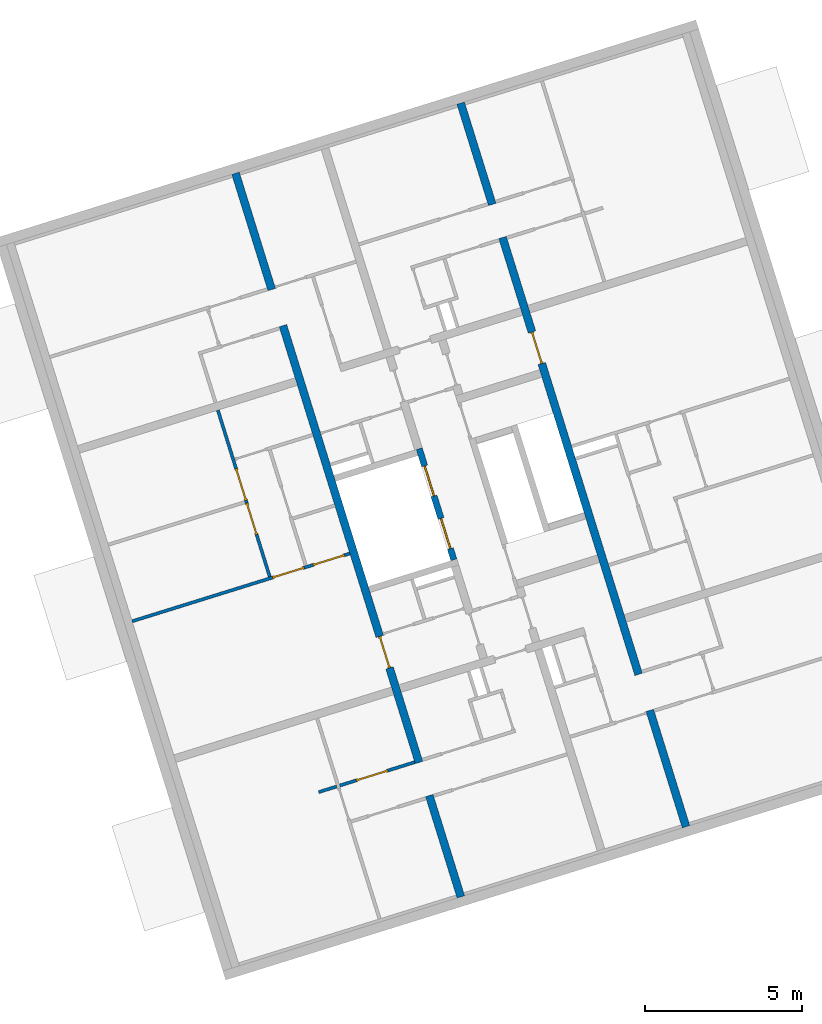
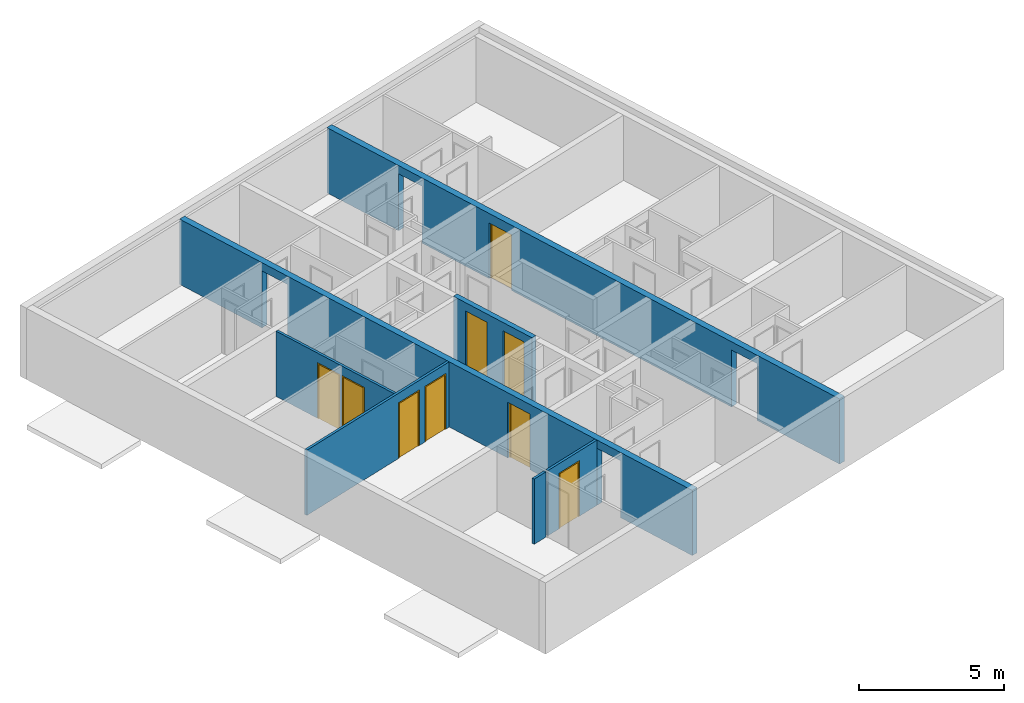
# One storey, part 8 of 9: 9 doors, 6 walls, 14 openings.
"""IFC4 building model written with IfcOpenShell, lengths in metres."""

import ifcopenshell
import ifcopenshell.guid

model = None  # the IFC model being written
_history = None  # IfcOwnerHistory: only IFC2X3 demands one
_inside = {}  # id of a spatial element -> (the spatial element, [elements in it])
_under = {}  # id of a project, library or spatial element -> (it, [spatial elements below it])
_declared = {}  # id of a project -> (the project, [libraries it declares])
_typed = {}  # id of a type object -> (the type object, [elements of that type])
_made_of = {}  # id of a material, layer set ... -> (it, [elements and type objects made of it])


def new_model(schema):
    """Start an empty IFC model of exactly this schema.

    Asked for "IFC4X3", IfcOpenShell would pick the latest addendum, in which some entities
    have other attributes; the version numbers below select the first issue.
    IFC2X3 requires an IfcOwnerHistory on every rooted entity: one is made here for all.
    """
    global model, _history
    if schema == "IFC4X3":
        model = ifcopenshell.file(schema_version=(4, 3, 0, 0))
    else:
        model = ifcopenshell.file(schema=schema)
    _inside.clear()
    _under.clear()
    _declared.clear()
    _typed.clear()
    _made_of.clear()
    _history = None
    if model.schema == "IFC2X3":
        org = make("IfcOrganization", Name="unknown")
        user = make(
            "IfcPersonAndOrganization",
            ThePerson=make("IfcPerson", FamilyName="unknown"),
            TheOrganization=org,
        )
        app = make(
            "IfcApplication",
            ApplicationDeveloper=org,
            Version="unknown",
            ApplicationFullName="unknown",
            ApplicationIdentifier="unknown",
        )
        _history = make(
            "IfcOwnerHistory",
            OwningUser=user,
            OwningApplication=app,
            ChangeAction="ADDED",
            CreationDate=0,
        )
    return model


def make(cls, **values):
    """One entity of the class cls with the attributes given. An attribute that is None is left unset."""
    return model.create_entity(
        cls, **{name: value for name, value in values.items() if value is not None}
    )


def entity(cls, *values):
    """Any entity or typed value of the class cls, its attributes in the order of the schema. None: left unset."""
    e = model.create_entity(cls)
    for i, value in enumerate(values):
        if value is not None:
            e[i] = value
    return e


def rooted(cls, **values):
    """An entity with a GlobalId (a new one), such as an element, a storey or a relation."""
    return make(cls, GlobalId=ifcopenshell.guid.new(), OwnerHistory=_history, **values)


def si_unit(unit_type, name, prefix=None):
    """IfcSIUnit, for example si_unit("LENGTHUNIT", "METRE", prefix="MILLI")."""
    return make("IfcSIUnit", UnitType=unit_type, Prefix=prefix, Name=name)


def converted_unit(unit_type, name, factor, base, dimensions=None, offset=None):
    """IfcConversionBasedUnit, such as the inch: factor (a typed value) times the base unit."""
    return make(
        "IfcConversionBasedUnit"
        if offset is None
        else "IfcConversionBasedUnitWithOffset",
        ConversionOffset=offset,
        Dimensions=None
        if dimensions is None
        else entity("IfcDimensionalExponents", *dimensions),
        UnitType=unit_type,
        Name=name,
        ConversionFactor=make(
            "IfcMeasureWithUnit", ValueComponent=factor, UnitComponent=base
        ),
    )


def assignment(units):
    """IfcUnitAssignment: the units of a project."""
    return None if units is None else make("IfcUnitAssignment", Units=units)


def point(xyz):
    """IfcCartesianPoint."""
    return None if xyz is None else make("IfcCartesianPoint", Coordinates=xyz)


def direction(xyz):
    """IfcDirection."""
    return None if xyz is None else make("IfcDirection", DirectionRatios=xyz)


def frame(location, z_axis=None, x_axis=None):
    """IfcAxis2Placement3D, a coordinate frame: its origin and axes. An axis left out is left unset."""
    return make(
        "IfcAxis2Placement3D",
        Location=point(location),
        Axis=direction(z_axis),
        RefDirection=direction(x_axis),
    )


def origin():
    """The frame at (0, 0, 0) with its axes left unset."""
    return frame((0.0, 0.0, 0.0))


def place(relative_to, where):
    """IfcLocalPlacement: puts the frame where relative to a parent placement (None: the world)."""
    return make(
        "IfcLocalPlacement", PlacementRelTo=relative_to, RelativePlacement=where
    )


def context(
    kind, dimensions, precision=None, world=None, true_north=None, identifier=None
):
    """IfcGeometricRepresentationContext, for example the 3D "Model" context."""
    return make(
        "IfcGeometricRepresentationContext",
        ContextIdentifier=identifier,
        ContextType=kind,
        CoordinateSpaceDimension=dimensions,
        Precision=precision,
        WorldCoordinateSystem=world,
        TrueNorth=true_north,
    )


def subcontext(parent, identifier, kind, view, scale=None):
    """IfcGeometricRepresentationSubContext, for example "Body" below "Model"."""
    return make(
        "IfcGeometricRepresentationSubContext",
        ContextIdentifier=identifier,
        ContextType=kind,
        ParentContext=parent,
        TargetScale=scale,
        TargetView=view,
    )


def project(units=None, contexts=None):
    """IfcProject with its units and contexts."""
    return rooted(
        "IfcProject",
        Name="project",
        RepresentationContexts=contexts,
        UnitsInContext=assignment(units),
    )


def spatial(cls, under=None, at=None, **own):
    """A site, building, storey or space (cls), placed at a placement, below another one or the project."""
    s = rooted(cls, ObjectPlacement=at, **own)
    if under is not None:
        _under.setdefault(under.id(), (under, []))[1].append(s)
    return s


def point_list(points):
    """IfcCartesianPointList2D or 3D."""
    cls = (
        "IfcCartesianPointList2D" if len(points[0]) == 2 else "IfcCartesianPointList3D"
    )
    return make(cls, CoordList=points)


def indexed_curve(points, segments=None, self_intersect=None):
    """IfcIndexedPolyCurve: lines and arcs through numbered points (the first is 1)."""
    return make(
        "IfcIndexedPolyCurve",
        Points=point_list(points),
        Segments=segments,
        SelfIntersect=self_intersect,
    )


def outline(outer, holes=None, kind="AREA"):
    """IfcArbitraryClosedProfileDef: a profile drawn as a closed curve; with holes, ...WithVoids."""
    if holes is None:
        return make("IfcArbitraryClosedProfileDef", ProfileType=kind, OuterCurve=outer)
    return make(
        "IfcArbitraryProfileDefWithVoids",
        ProfileType=kind,
        OuterCurve=outer,
        InnerCurves=holes,
    )


def extrude(swept, where, along, depth):
    """IfcExtrudedAreaSolid: the profile swept, set in the frame where, extruded along a direction by depth."""
    return make(
        "IfcExtrudedAreaSolid",
        SweptArea=swept,
        Position=where,
        ExtrudedDirection=direction(along),
        Depth=depth,
    )


def polygons(points, faces, closed=None, point_numbers=None):
    """IfcPolygonalFaceSet: a face is its outer loop, then its inner loops; points numbered from 1."""
    made = []
    for loops in faces:
        if len(loops) == 1:
            made.append(make("IfcIndexedPolygonalFace", CoordIndex=loops[0]))
        else:
            made.append(
                make(
                    "IfcIndexedPolygonalFaceWithVoids",
                    CoordIndex=loops[0],
                    InnerCoordIndices=loops[1:],
                )
            )
    return make(
        "IfcPolygonalFaceSet",
        Coordinates=point_list(points),
        Closed=closed,
        Faces=made,
        PnIndex=point_numbers,
    )


def shape(context_of_items, identifier, shape_type, items):
    """IfcShapeRepresentation: the items that make up one representation, for example the "Body"."""
    return make(
        "IfcShapeRepresentation",
        ContextOfItems=context_of_items,
        RepresentationIdentifier=identifier,
        RepresentationType=shape_type,
        Items=items,
    )


def source(mapping_origin, context_of_items, identifier, shape_type, items):
    """IfcRepresentationMap: a shape defined once, which mapped items show again and again."""
    return make(
        "IfcRepresentationMap",
        MappingOrigin=mapping_origin,
        MappedRepresentation=shape(context_of_items, identifier, shape_type, items),
    )


def transform(
    local_origin,
    x_axis=None,
    y_axis=None,
    z_axis=None,
    scale=None,
    scale2=None,
    scale3=None,
    uniform=True,
):
    """IfcCartesianTransformationOperator3D, or its non-uniform kind. x_axis, y_axis, z_axis: its Axis1, 2, 3."""
    if uniform:
        return make(
            "IfcCartesianTransformationOperator3D",
            Axis1=direction(x_axis),
            Axis2=direction(y_axis),
            LocalOrigin=point(local_origin),
            Scale=scale,
            Axis3=direction(z_axis),
        )
    return make(
        "IfcCartesianTransformationOperator3DnonUniform",
        Axis1=direction(x_axis),
        Axis2=direction(y_axis),
        LocalOrigin=point(local_origin),
        Scale=scale,
        Axis3=direction(z_axis),
        Scale2=scale2,
        Scale3=scale3,
    )


def mapped(mapping_source, mapping_target):
    """IfcMappedItem: shows the shape of a source again, moved by a transform."""
    return make(
        "IfcMappedItem", MappingSource=mapping_source, MappingTarget=mapping_target
    )


def material(Name=None, Category=None):
    """IfcMaterial."""
    return make("IfcMaterial", Name=Name, Category=Category)


def constituent(of_material, Name=None, Category=None, fraction=None):
    """IfcMaterialConstituent: one of the materials an element consists of."""
    return make(
        "IfcMaterialConstituent",
        Name=Name,
        Material=of_material,
        Fraction=fraction,
        Category=Category,
    )


def constituent_set(constituents=None, Name=None):
    """IfcMaterialConstituentSet."""
    return make(
        "IfcMaterialConstituentSet", Name=Name, MaterialConstituents=constituents
    )


def made_of(thing, what):
    """Note that an element or type object is made of a material, layer set ...; save() writes the relation."""
    if what is not None:
        _made_of.setdefault(what.id(), (what, []))[1].append(thing)
    return thing


def type_object(cls, material=None, **own):
    """A type object (cls), such as IfcWallType, which elements share."""
    return made_of(rooted(cls, **own), material)


def type_shapes(of_type, sources):
    """Give a type object the sources (RepresentationMaps) that its elements show as mapped items."""
    of_type.RepresentationMaps = sources


def element(
    cls,
    number,
    at=None,
    inside=None,
    cuts=None,
    type_object=None,
    material=None,
    context=None,
    identifier="Body",
    shape_type=None,
    held_by="IfcProductDefinitionShape",
    body=None,
    shapes=None,
    **own,
):
    """One element of the class cls, such as IfcWall. Its Tag is "e" and its number.

    at: its placement. inside: the storey or other place that contains it. cuts: it is an
    opening in that element (IfcRelVoidsElement). A single representation is given by context,
    identifier, shape_type and body (its items); several are given by shapes. held_by: the class
    of the entity that holds the representations. save() writes the other relations.
    """
    e = rooted(cls, Tag="e%d" % number, ObjectPlacement=at, **own)
    if body is not None:
        shapes = [shape(context, identifier, shape_type, body)]
    if shapes is not None:
        e.Representation = make(held_by, Representations=shapes)
    if inside is not None:
        _inside.setdefault(inside.id(), (inside, []))[1].append(e)
    if cuts is not None:
        rooted(
            "IfcRelVoidsElement", RelatingBuildingElement=cuts, RelatedOpeningElement=e
        )
    if type_object is not None:
        _typed.setdefault(type_object.id(), (type_object, []))[1].append(e)
    return made_of(e, material)


def fill(opening, filler):
    """IfcRelFillsElement: the door or window that sits in an opening."""
    return rooted(
        "IfcRelFillsElement",
        RelatingOpeningElement=opening,
        RelatedBuildingElement=filler,
    )


def aggregate(whole, parts):
    """IfcRelAggregates: a whole, such as a stair, and the parts it consists of."""
    return rooted("IfcRelAggregates", RelatingObject=whole, RelatedObjects=parts)


def save(model, path):
    """Write the relations noted so far, then the file.

    IfcRelAggregates (storeys below a building ...), IfcRelContainedInSpatialStructure (elements
    in a storey), IfcRelDefinesByType, IfcRelAssociatesMaterial and IfcRelDeclares: one each for
    every whole, place, type object, material and project.
    """
    for whole, parts in _under.values():
        aggregate(whole, parts)
    for where, things in _inside.values():
        rooted(
            "IfcRelContainedInSpatialStructure",
            RelatedElements=things,
            RelatingStructure=where,
        )
    for kind, things in _typed.values():
        rooted("IfcRelDefinesByType", RelatedObjects=things, RelatingType=kind)
    for what, things in _made_of.values():
        rooted("IfcRelAssociatesMaterial", RelatedObjects=things, RelatingMaterial=what)
    for by, libraries in _declared.values():
        rooted("IfcRelDeclares", RelatingContext=by, RelatedDefinitions=libraries)
    model.write(path)


model = new_model("IFC4")

# Units and contexts
model_context = context("Model", 3, precision=1e-05, world=origin(), true_north=direction((6.12323399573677e-17, 1.0)))
body_context = subcontext(model_context, "Body", "Model", "MODEL_VIEW")
ifc_project = project(units=[si_unit("LENGTHUNIT", "METRE"), si_unit("AREAUNIT", "SQUARE_METRE"), si_unit("VOLUMEUNIT", "CUBIC_METRE"), converted_unit("PLANEANGLEUNIT", "DEGREE", entity("IfcPlaneAngleMeasure", 0.0174532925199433), si_unit("PLANEANGLEUNIT", "RADIAN"), dimensions=[0, 0, 0, 0, 0, 0, 0])], contexts=[model_context])

# Site, building, storey
site_placement = place(None, frame((13.1347999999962, 11.9886000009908, 0.0), z_axis=(0.0, 0.0, 1.0), x_axis=(0.954770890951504, 0.297342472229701, 0.0)))
site = spatial("IfcSite", under=ifc_project, at=site_placement, Name="Schiehaven", CompositionType="ELEMENT")
building_placement = place(site_placement, origin())
building = spatial("IfcBuilding", under=site, at=building_placement, Name="VORM huis", CompositionType="ELEMENT")
storey_placement = place(building_placement, frame((0.0, 0.0, 24.9)))
storey = spatial("IfcBuildingStorey", under=building, at=storey_placement, Name="08 achtste verdieping", CompositionType="ELEMENT", Elevation=24.9)

# Wall, openings, door
ifc_material_1 = material(Name="beton_gewapend_ihw", Category="Miscellaneous")
wall_type_1 = type_object("IfcWallType", Name="Basic Wall:28_WA_skelet_wand 250mm_gen", PredefinedType="STANDARD")
wall_1_placement = place(storey_placement, frame((12.5000000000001, 5.0, 0.0), z_axis=(0.0, 0.0, 1.0), x_axis=(0.0, 1.0, 0.0)))
wall_1 = element("IfcWall", 1, at=wall_1_placement, inside=storey, type_object=wall_type_1, material=ifc_material_1, Name="Constructieve wand", ObjectType="Wand", PredefinedType="NOTDEFINED", context=body_context, shape_type="Tessellation", body=[
    polygons([(8.67499999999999, -0.125, 2.34999999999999), (8.67499999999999, -0.125, 0.0), (19.0250000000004, -0.124999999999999, 0.0), (19.0250000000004, -0.124999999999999, 2.4), (20.2250000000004, -0.124999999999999, 2.4), (20.2250000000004, -0.124999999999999, 0.0), (24.1, -0.125, 0.0), (24.1, -0.125, 2.75), (7.025, -0.124999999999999, 2.75), (6.775, -0.125, 2.75), (0.0, -0.125, 2.75), (1.08286712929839e-15, -0.125, 0.0), (3.37500000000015, -0.124999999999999, 0.0), (3.37500000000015, -0.124999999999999, 2.4), (4.47500000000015, -0.125, 2.4), (4.47500000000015, -0.125, 0.0), (6.775, -0.125, 0.0), (7.025, -0.124999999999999, 0.0), (7.62499999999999, -0.124999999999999, 0.0), (7.62499999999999, -0.124999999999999, 2.34999999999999), (19.0250000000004, 0.125, 0.0), (8.67499999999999, 0.125, 0.0), (8.67499999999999, 0.125, 2.34999999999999), (7.62499999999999, 0.125, 2.34999999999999), (7.62499999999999, 0.125, 0.0), (4.47500000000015, 0.124999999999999, 0.0), (4.47500000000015, 0.124999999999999, 2.4), (3.37500000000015, 0.125000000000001, 2.4), (3.37500000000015, 0.125000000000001, 0.0), (1.08286712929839e-15, 0.125, 0.0), (0.0, 0.125, 2.75), (24.1, 0.124999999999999, 2.75), (24.1, 0.124999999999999, 0.0), (20.2250000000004, 0.125, 0.0), (20.2250000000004, 0.125, 2.4), (19.0250000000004, 0.125, 2.4)], [[[1, 2, 3, 4, 5, 6, 7, 8, 9, 10, 11, 12, 13, 14, 15, 16, 17, 18, 19, 20]], [[21, 22, 23, 24, 25, 26, 27, 28, 29, 30, 31, 32, 33, 34, 35, 36]], [[12, 30, 29, 13]], [[8, 7, 33, 32]], [[11, 10, 9, 8, 32, 31]], [[12, 11, 31, 30]], [[14, 28, 27, 15]], [[28, 14, 13, 29]], [[15, 27, 26, 16]], [[4, 36, 35, 5]], [[36, 4, 3, 21]], [[5, 35, 34, 6]], [[25, 24, 20, 19]], [[23, 22, 2, 1]], [[24, 23, 1, 20]], [[19, 18, 17, 16, 26, 25]], [[3, 2, 22, 21]], [[33, 7, 6, 34]]], closed=True),
])
opening_1_placement = place(wall_1_placement, origin())
element("IfcOpeningElement", 2, at=opening_1_placement, cuts=wall_1, Name="Constructieve wand", PredefinedType="OPENING", context=body_context, shape_type="SweptSolid", body=[
    extrude(outline(indexed_curve([(-1.2, -0.550000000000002), (1.2, -0.550000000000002), (1.2, 0.550000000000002), (-1.2, 0.550000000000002), (-1.2, -0.550000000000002)], self_intersect=False)), frame((3.92500000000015, -0.125, 1.2), z_axis=(0.0, 1.0, 0.0), x_axis=(0.0, 0.0, -1.0)), (0.0, 0.0, 1.0), 0.249999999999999),
])
opening_2_placement = place(wall_1_placement, origin())
element("IfcOpeningElement", 3, at=opening_2_placement, cuts=wall_1, Name="Constructieve wand", PredefinedType="OPENING", context=body_context, shape_type="SweptSolid", body=[
    extrude(outline(indexed_curve([(-1.2, -0.599999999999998), (1.2, -0.599999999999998), (1.2, 0.599999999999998), (-1.2, 0.599999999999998), (-1.2, -0.599999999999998)], self_intersect=False)), frame((19.6250000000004, -0.124999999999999, 1.2), z_axis=(0.0, 1.0, 0.0), x_axis=(0.0, 0.0, -1.0)), (0.0, 0.0, 1.0), 0.249999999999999),
])
opening_3_placement = place(wall_1_placement, frame((8.67499999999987, 0.124999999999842, 0.0)))
opening_3 = element("IfcOpeningElement", 4, at=opening_3_placement, cuts=wall_1, Name="Binnendeur", PredefinedType="OPENING", context=body_context, shape_type="SweptSolid", body=[
    extrude(outline(indexed_curve([(2.34999999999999, 1.05), (0.0, 1.05), (0.0, 1.08286712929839e-15), (2.34999999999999, 1.08286712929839e-15), (2.34999999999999, 1.05)], self_intersect=False)), frame((0.0, 0.0, 0.0), z_axis=(0.0, -1.0, 0.0), x_axis=(0.0, 0.0, 1.0)), (0.0, 0.0, 1.0), 0.25),
])
ifc_material_2 = material(Name="PD_a_binnenwandopeningen", Category="Miscellaneous")
ifc_constituent_1 = constituent(ifc_material_2, Name="PD_a_binnenwandopeningen", Category="Miscellaneous")
ifc_material_3 = material(Name="metaal_aluminium_ntb", Category="Miscellaneous")
ifc_constituent_2 = constituent(ifc_material_3, Name="metaal_aluminium_ntb", Category="Miscellaneous")
ifc_constituent_set_1 = constituent_set(constituents=[ifc_constituent_1, ifc_constituent_2])
door_type_1 = type_object("IfcDoorType", Name="32_DO_binnendeur enkel:binnendeur", OperationType="REVOLVING", PredefinedType="DOOR")
shared_shape_1 = source(origin(), body_context, "Body", "SweptSolid", [
    extrude(outline(indexed_curve([(-1.16249999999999, -0.525000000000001), (1.18749999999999, -0.525), (1.18749999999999, 0.525000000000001), (-1.16249999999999, 0.525000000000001), (-1.16249999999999, 0.475), (1.13749999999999, 0.475), (1.13749999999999, -0.475), (-1.16249999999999, -0.475), (-1.16249999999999, -0.525000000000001)], self_intersect=False)), frame((0.525000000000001, 0.0749999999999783, 1.16249999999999), z_axis=(0.0, 1.0, 0.0), x_axis=(0.0, 0.0, 1.0)), (0.0, 0.0, 1.0), 0.1),
    extrude(outline(indexed_curve([(-0.025, -0.475), (0.025, -0.475), (0.025, 0.475), (-0.025, 0.475), (-0.025, -0.475)], self_intersect=False)), frame((0.525000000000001, 0.12499999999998, 0.0), z_axis=(0.0, 0.0, 1.0), x_axis=(0.0, 1.0, 0.0)), (0.0, 0.0, 1.0), 2.29999999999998),
])
door_1_placement = place(opening_3_placement, frame((0.0, 0.0, 0.0), z_axis=(0.0, 0.0, 1.0), x_axis=(-1.0, 0.0, 0.0)))
door_1 = element("IfcDoor", 5, at=door_1_placement, inside=storey, type_object=door_type_1, material=ifc_constituent_set_1, Name="Binnendeur", ObjectType="Deur", OperationType="REVOLVING", OverallHeight=2.34999999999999, OverallWidth=1.05, PredefinedType="DOOR", context=body_context, shape_type="MappedRepresentation", body=[
    mapped(shared_shape_1, transform((0.0, 0.0, 0.0), scale=1.0)),
])
fill(opening_3, door_1)

wall_2_placement = place(storey_placement, frame((20.0, 29.0999999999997, 0.0), z_axis=(0.0, 0.0, 1.0), x_axis=(0.0, -1.0, 0.0)))
wall_2 = element("IfcWall", 6, at=wall_2_placement, inside=storey, type_object=wall_type_1, material=ifc_material_1, Name="Constructieve wand", ObjectType="Wand", PredefinedType="NOTDEFINED", context=body_context, shape_type="Tessellation", body=[
    polygons([(8.67499999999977, -0.124999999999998, 2.34999999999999), (8.67499999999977, -0.124999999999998, 0.0), (19.0249999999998, -0.124999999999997, 0.0), (19.0249999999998, -0.124999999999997, 2.4), (20.2249999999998, -0.125000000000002, 2.4), (20.2249999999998, -0.124999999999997, 0.0), (24.1, -0.124999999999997, 0.0), (24.1, -0.124999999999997, 2.75), (7.025, -0.124999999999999, 2.75), (6.775, -0.125, 2.75), (4.33146851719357e-15, -0.124999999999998, 2.75), (4.33146851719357e-15, -0.124999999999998, 0.0), (3.37499999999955, -0.124999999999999, 0.0), (3.37499999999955, -0.124999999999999, 2.4), (4.47499999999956, -0.124999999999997, 2.4), (4.47499999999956, -0.124999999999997, 0.0), (6.775, -0.125, 0.0), (7.025, -0.124999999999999, 0.0), (7.62499999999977, -0.124999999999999, 0.0), (7.62499999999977, -0.124999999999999, 2.34999999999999), (19.0249999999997, 0.125000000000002, 0.0), (8.67499999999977, 0.125000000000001, 0.0), (8.67499999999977, 0.125000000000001, 2.34999999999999), (7.62499999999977, 0.125, 2.34999999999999), (7.62499999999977, 0.125, 0.0), (4.47499999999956, 0.125000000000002, 0.0), (4.47499999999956, 0.125000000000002, 2.4), (3.37499999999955, 0.125, 2.4), (3.37499999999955, 0.125, 0.0), (0.0, 0.125000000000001, 0.0), (0.0, 0.125000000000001, 2.75), (24.1, 0.125000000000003, 2.75), (24.1, 0.125000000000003, 0.0), (20.2249999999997, 0.125000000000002, 0.0), (20.2249999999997, 0.125000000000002, 2.4), (19.0249999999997, 0.125000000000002, 2.4)], [[[1, 2, 3, 4, 5, 6, 7, 8, 9, 10, 11, 12, 13, 14, 15, 16, 17, 18, 19, 20]], [[21, 22, 23, 24, 25, 26, 27, 28, 29, 30, 31, 32, 33, 34, 35, 36]], [[12, 30, 29, 13]], [[8, 7, 33, 32]], [[11, 10, 9, 8, 32, 31]], [[12, 11, 31, 30]], [[14, 28, 27, 15]], [[28, 14, 13, 29]], [[15, 27, 26, 16]], [[4, 36, 35, 5]], [[36, 4, 3, 21]], [[5, 35, 34, 6]], [[25, 24, 20, 19]], [[23, 22, 2, 1]], [[24, 23, 1, 20]], [[19, 18, 17, 16, 26, 25]], [[3, 2, 22, 21]], [[33, 7, 6, 34]]], closed=True),
])
opening_4_placement = place(wall_2_placement, origin())
element("IfcOpeningElement", 7, at=opening_4_placement, cuts=wall_2, Name="Constructieve wand", PredefinedType="OPENING", context=body_context, shape_type="SweptSolid", body=[
    extrude(outline(indexed_curve([(-1.2, -0.550000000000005), (1.2, -0.550000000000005), (1.2, 0.550000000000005), (-1.2, 0.550000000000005), (-1.2, -0.550000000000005)], self_intersect=False)), frame((3.92499999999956, -0.125000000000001, 1.2), z_axis=(0.0, 1.0, 0.0), x_axis=(0.0, 0.0, -1.0)), (0.0, 0.0, 1.0), 0.250000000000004),
])
opening_5_placement = place(wall_2_placement, origin())
element("IfcOpeningElement", 8, at=opening_5_placement, cuts=wall_2, Name="Constructieve wand", PredefinedType="OPENING", context=body_context, shape_type="SweptSolid", body=[
    extrude(outline(indexed_curve([(-1.2, -0.599999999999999), (1.2, -0.599999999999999), (1.2, 0.599999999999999), (-1.2, 0.599999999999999), (-1.2, -0.599999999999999)], self_intersect=False)), frame((19.6249999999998, -0.125000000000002, 1.2), z_axis=(0.0, 1.0, 0.0), x_axis=(0.0, 0.0, -1.0)), (0.0, 0.0, 1.0), 0.250000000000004),
])
opening_6_placement = place(wall_2_placement, frame((8.67499999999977, 0.125000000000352, 0.0)))
opening_6 = element("IfcOpeningElement", 9, at=opening_6_placement, cuts=wall_2, Name="Binnendeur", PredefinedType="OPENING", context=body_context, shape_type="SweptSolid", body=[
    extrude(outline(indexed_curve([(2.34999999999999, 1.05), (0.0, 1.05), (0.0, -7.44152288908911e-29), (2.34999999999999, -7.44152288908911e-29), (2.34999999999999, 1.05)], self_intersect=False)), frame((0.0, 0.0, 0.0), z_axis=(0.0, -1.0, 0.0), x_axis=(0.0, 0.0, 1.0)), (0.0, 0.0, 1.0), 0.25),
])
ifc_constituent_3 = constituent(ifc_material_2, Name="PD_a_binnenwandopeningen", Category="Miscellaneous")
ifc_constituent_4 = constituent(ifc_material_3, Name="metaal_aluminium_ntb", Category="Miscellaneous")
ifc_constituent_set_2 = constituent_set(constituents=[ifc_constituent_3, ifc_constituent_4])
door_2_placement = place(opening_6_placement, frame((0.0, 0.0, 0.0), z_axis=(0.0, 0.0, 1.0), x_axis=(-1.0, 0.0, 0.0)))
door_2 = element("IfcDoor", 10, at=door_2_placement, inside=storey, type_object=door_type_1, material=ifc_constituent_set_2, Name="Binnendeur", ObjectType="Deur", OperationType="REVOLVING", OverallHeight=2.34999999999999, OverallWidth=1.05, PredefinedType="DOOR", context=body_context, shape_type="MappedRepresentation", body=[
    mapped(shared_shape_1, transform((0.0, 0.0, 0.0), scale=1.0)),
])
fill(opening_6, door_2)

# Wall, openings, doors
ifc_material_4 = material(Name="beton_gewapend_prefab-element", Category="Miscellaneous")
wall_type_2 = type_object("IfcWallType", Name="Basic Wall:28_WA_skelet_wand 200mm_gen", PredefinedType="STANDARD")
wall_3_placement = place(storey_placement, frame((15.4750000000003, 15.3, 0.0), z_axis=(0.0, 0.0, 1.0), x_axis=(0.0, 1.0, 0.0)))
wall_3 = element("IfcWall", 11, at=wall_3_placement, inside=storey, type_object=wall_type_2, material=ifc_material_4, Name="Constructieve wand", ObjectType="Wand", PredefinedType="NOTDEFINED", context=body_context, shape_type="Tessellation", body=[
    polygons([(3.7, -0.0999999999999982, 2.75), (2.16573425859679e-15, -0.0999999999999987, 2.75), (2.16573425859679e-15, -0.0999999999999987, 0.0), (0.374999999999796, -0.0999999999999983, 0.0), (0.374999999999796, -0.0999999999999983, 2.39999999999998), (1.3749999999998, -0.0999999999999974, 2.39999999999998), (1.3749999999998, -0.0999999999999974, 0.0), (2.1249999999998, -0.100000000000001, 0.0), (2.1249999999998, -0.100000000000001, 2.39999999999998), (3.1249999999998, -0.1, 2.39999999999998), (3.1249999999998, -0.1, 0.0), (3.7, -0.0999999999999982, 0.0), (2.16573425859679e-15, 0.100000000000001, 2.75), (3.5, 0.100000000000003, 2.75), (3.7, 0.0999999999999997, 2.75), (3.7, 0.0999999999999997, 0.0), (3.5, 0.100000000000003, 0.0), (3.1249999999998, 0.100000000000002, 0.0), (3.1249999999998, 0.100000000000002, 2.39999999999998), (2.1249999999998, 0.100000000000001, 2.39999999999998), (2.1249999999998, 0.100000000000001, 0.0), (1.3749999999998, 0.100000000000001, 0.0), (1.3749999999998, 0.100000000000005, 2.39999999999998), (0.3749999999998, 0.100000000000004, 2.39999999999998), (0.3749999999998, 0.100000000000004, 0.0), (0.0, 0.100000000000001, 0.0)], [[[1, 2, 3, 4, 5, 6, 7, 8, 9, 10, 11, 12]], [[13, 14, 15, 16, 17, 18, 19, 20, 21, 22, 23, 24, 25, 26]], [[4, 3, 26, 25]], [[2, 1, 15, 14, 13]], [[6, 23, 22, 7]], [[24, 5, 4, 25]], [[23, 6, 5, 24]], [[10, 19, 18, 11]], [[20, 9, 8, 21]], [[19, 10, 9, 20]], [[1, 12, 16, 15]], [[3, 2, 13, 26]], [[7, 22, 21, 8]], [[16, 12, 11, 18, 17]]], closed=True),
])
opening_7_placement = place(wall_3_placement, frame((-15.3, 15.4750000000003, 0.0), z_axis=(0.0, 0.0, 1.0), x_axis=(0.0, -1.0, 0.0)))
opening_7 = element("IfcOpeningElement", 12, at=opening_7_placement, cuts=wall_3, Name="Brandweerlift", PredefinedType="OPENING", context=body_context, shape_type="SweptSolid", body=[
    extrude(outline(indexed_curve([(-1.19999999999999, -0.499999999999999), (1.19999999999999, -0.499999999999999), (1.19999999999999, 0.500000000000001), (-1.19999999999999, 0.500000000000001), (-1.19999999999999, -0.499999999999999)], self_intersect=False)), frame((15.7436720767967, 16.1749999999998, 1.19999999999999), z_axis=(-1.0, 0.0, 0.0), x_axis=(0.0, 0.0, -1.0)), (0.0, 0.0, 1.0), 0.756310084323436),
])
opening_8_placement = place(wall_3_placement, frame((-15.3, 15.4750000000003, 0.0), z_axis=(0.0, 0.0, 1.0), x_axis=(0.0, -1.0, 0.0)))
opening_8 = element("IfcOpeningElement", 13, at=opening_8_placement, cuts=wall_3, Name="Brandweerlift", PredefinedType="OPENING", context=body_context, shape_type="SweptSolid", body=[
    extrude(outline(indexed_curve([(-1.19999999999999, -0.500000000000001), (1.19999999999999, -0.500000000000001), (1.19999999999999, 0.499999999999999), (-1.19999999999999, 0.499999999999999), (-1.19999999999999, -0.500000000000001)], self_intersect=False)), frame((15.7436720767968, 17.9249999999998, 1.19999999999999), z_axis=(-1.0, 0.0, 0.0), x_axis=(0.0, 0.0, -1.0)), (0.0, 0.0, 1.0), 0.756310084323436),
])
door_type_2 = type_object("IfcDoorType", Name="66_WI_liftdeur:brandweerlift - tweezijdig toegankelijk", OperationType="NOTDEFINED", PredefinedType="DOOR", material=ifc_material_3)
shared_shape_2 = source(origin(), body_context, "Body", "SweptSolid", [
    extrude(outline(indexed_curve([(-0.0250000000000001, -0.25), (0.0249999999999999, -0.25), (0.0250000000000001, 0.25), (-0.0249999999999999, 0.25), (-0.0250000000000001, -0.25)], self_intersect=False)), frame((0.250000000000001, 0.487638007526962, 0.0), z_axis=(0.0, 0.0, 1.0), x_axis=(0.0, 1.0, 0.0)), (0.0, 0.0, 1.0), 2.39999999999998),
    extrude(outline(indexed_curve([(-0.0250000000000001, -0.25), (0.0249999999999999, -0.25), (0.0250000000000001, 0.25), (-0.0249999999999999, 0.25), (-0.0250000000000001, -0.25)], self_intersect=False)), frame((0.750000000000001, 0.48763800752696, 0.0), z_axis=(0.0, 0.0, 1.0), x_axis=(0.0, 1.0, 0.0)), (0.0, 0.0, 1.0), 2.39999999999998),
])
type_shapes(door_type_2, [shared_shape_2])
door_3_placement = place(opening_7_placement, frame((14.9873619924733, 16.6749999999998, 0.0), z_axis=(0.0, 0.0, 1.0), x_axis=(0.0, -1.0, 0.0)))
door_3 = element("IfcDoor", 14, at=door_3_placement, inside=storey, type_object=door_type_2, material=ifc_material_3, Name="Brandweerlift", ObjectType="Transport", OperationType="NOTDEFINED", OverallHeight=2.39999999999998, OverallWidth=1.0, PredefinedType="DOOR", context=body_context, shape_type="MappedRepresentation", body=[
    mapped(shared_shape_2, transform((0.0, 0.0, 0.0), scale=1.0)),
])
fill(opening_7, door_3)
door_4_placement = place(opening_8_placement, frame((14.9873619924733, 18.4249999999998, 0.0), z_axis=(0.0, 0.0, 1.0), x_axis=(0.0, -1.0, 0.0)))
door_4 = element("IfcDoor", 15, at=door_4_placement, inside=storey, type_object=door_type_2, material=ifc_material_3, Name="Brandweerlift", ObjectType="Transport", OperationType="NOTDEFINED", OverallHeight=2.39999999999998, OverallWidth=1.0, PredefinedType="DOOR", context=body_context, shape_type="MappedRepresentation", body=[
    mapped(shared_shape_2, transform((0.0, 0.0, 0.0), scale=1.0)),
])
fill(opening_8, door_4)

# Wall, openings, door
ifc_material_5 = material(Name="ntb_ntb_ntb", Category="Miscellaneous")
wall_type_3 = type_object("IfcWallType", Name="Basic Wall:22_WA_afbouw_binnenwand 100mm_gen", PredefinedType="STANDARD")
wall_4_placement = place(storey_placement, frame((12.3750000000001, 9.52499999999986, 0.0), z_axis=(0.0, 0.0, 1.0), x_axis=(-1.0, 0.0, 0.0)))
wall_4 = element("IfcWall", 16, at=wall_4_placement, inside=storey, type_object=wall_type_3, material=ifc_material_5, Name="Binnenwand", ObjectType="Wand", PredefinedType="NOTDEFINED", context=body_context, shape_type="Tessellation", body=[
    polygons([(-2.22976765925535e-15, -0.0500000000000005, 2.75), (-2.22976765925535e-15, -0.0500000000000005, 0.0), (0.899999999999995, -0.0500000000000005, 0.0), (0.899999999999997, -0.0500000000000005, 2.34999999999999), (1.95, -0.0500000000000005, 2.34999999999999), (1.95, -0.0500000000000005, 0.0), (2.50000000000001, -0.0500000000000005, 0.0), (2.50000000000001, -0.0500000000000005, 2.75), (-2.09904175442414e-15, 0.0499999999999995, 0.0), (0.899999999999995, 0.0499999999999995, 0.0), (-2.09904175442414e-15, 0.0499999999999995, 2.75), (1.95, 0.0499999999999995, 2.34999999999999), (1.95, 0.0499999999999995, 0.0), (0.899999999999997, 0.0499999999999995, 2.34999999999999), (2.50000000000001, 0.0499999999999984, 0.0), (2.50000000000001, 0.0499999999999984, 2.75)], [[[1, 2, 3, 4, 5, 6, 7, 8]], [[2, 9, 10, 3]], [[2, 1, 11, 9]], [[6, 5, 12, 13]], [[4, 3, 10, 14]], [[5, 4, 14, 12]], [[8, 7, 15, 16]], [[11, 1, 8, 16]], [[6, 13, 15, 7]], [[9, 11, 16, 15, 13, 12, 14, 10]]], closed=True),
    polygons([(3.2, 0.0500000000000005, 2.75), (3.2, 0.0500000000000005, 0.0), (2.60000000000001, 0.0499999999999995, 0.0), (2.60000000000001, 0.0499999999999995, 2.75), (3.2, -0.0499999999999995, 2.75), (3.2, -0.0499999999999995, 0.0), (2.60000000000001, -0.0500000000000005, 2.75), (2.60000000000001, -0.0500000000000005, 0.0)], [[[1, 2, 3, 4]], [[5, 6, 2, 1]], [[5, 1, 4, 7]], [[8, 7, 4, 3]], [[2, 6, 8, 3]], [[6, 5, 7, 8]]], closed=True),
])
opening_9_placement = place(storey_placement, frame((12.3750000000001, 9.52499999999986, 0.0), z_axis=(0.0, 0.0, 1.0), x_axis=(-1.0, 0.0, 0.0)))
element("IfcOpeningElement", 17, at=opening_9_placement, cuts=wall_4, Name="Binnenwand:1", PredefinedType="OPENING", context=body_context, shape_type="SweptSolid", body=[
    extrude(outline(indexed_curve([(-1.375, -0.0499999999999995), (1.375, -0.0499999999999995), (1.375, 0.0500000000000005), (-1.375, 0.0500000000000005), (-1.375, -0.0499999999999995)], self_intersect=False)), frame((2.60000000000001, 0.0, 1.375), z_axis=(-1.0, 0.0, 0.0), x_axis=(0.0, 0.0, 1.0)), (0.0, 0.0, 1.0), 0.100000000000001),
])
opening_10_placement = place(wall_4_placement, frame((0.899999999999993, -0.0500000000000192, 0.0)))
opening_10 = element("IfcOpeningElement", 18, at=opening_10_placement, cuts=wall_4, Name="Binnendeur", PredefinedType="OPENING", context=body_context, shape_type="SweptSolid", body=[
    extrude(outline(indexed_curve([(2.34999999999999, 1.05), (0.0, 1.05), (0.0, 1.35358391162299e-15), (2.34999999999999, 1.35358391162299e-15), (2.34999999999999, 1.05)], self_intersect=False)), frame((0.0, 0.0, 0.0), z_axis=(0.0, 1.0, 0.0), x_axis=(0.0, 0.0, 1.0)), (0.0, 0.0, 1.0), 0.1),
])
ifc_constituent_5 = constituent(ifc_material_2, Name="PD_a_binnenwandopeningen", Category="Miscellaneous")
ifc_constituent_6 = constituent(ifc_material_3, Name="metaal_aluminium_ntb", Category="Miscellaneous")
ifc_constituent_set_3 = constituent_set(constituents=[ifc_constituent_5, ifc_constituent_6])
shared_shape_3 = source(origin(), body_context, "Body", "SweptSolid", [
    extrude(outline(indexed_curve([(-1.16249999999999, -0.525000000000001), (1.18749999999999, -0.525), (1.18749999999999, 0.525), (-1.16249999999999, 0.525), (-1.16249999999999, 0.475), (1.13749999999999, 0.475), (1.13749999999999, -0.475), (-1.16249999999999, -0.475), (-1.16249999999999, -0.525000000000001)], self_intersect=False)), frame((0.525000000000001, 0.0, 1.16249999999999), z_axis=(0.0, 1.0, 0.0), x_axis=(0.0, 0.0, 1.0)), (0.0, 0.0, 1.0), 0.1),
    extrude(outline(indexed_curve([(-0.025, -0.475), (0.025, -0.475), (0.025, 0.475), (-0.025, 0.475), (-0.025, -0.475)], self_intersect=False)), frame((0.525000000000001, 0.0499999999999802, 0.0), z_axis=(0.0, 0.0, 1.0), x_axis=(0.0, 1.0, 0.0)), (0.0, 0.0, 1.0), 2.29999999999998),
])
type_shapes(door_type_1, [shared_shape_3])
door_5_placement = place(opening_10_placement, origin())
door_5 = element("IfcDoor", 19, at=door_5_placement, inside=storey, type_object=door_type_1, material=ifc_constituent_set_3, Name="Binnendeur", ObjectType="Deur", OperationType="REVOLVING", OverallHeight=2.34999999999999, OverallWidth=1.05, PredefinedType="DOOR", context=body_context, shape_type="MappedRepresentation", body=[
    mapped(shared_shape_3, transform((0.0, 0.0, 0.0), scale=1.0)),
])
fill(opening_10, door_5)

# Wall, openings, doors
wall_5_placement = place(storey_placement, frame((12.3771642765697, 16.475, 0.0), z_axis=(0.0, 0.0, 1.0), x_axis=(-1.0, 0.0, 0.0)))
wall_5 = element("IfcWall", 20, at=wall_5_placement, inside=storey, type_object=wall_type_3, material=ifc_material_5, Name="Binnenwand", ObjectType="Wand", PredefinedType="NOTDEFINED", context=body_context, shape_type="Tessellation", body=[
    polygons([(2.66089944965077e-16, -0.0500000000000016, 0.0), (0.176082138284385, -0.0499999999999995, 0.0), (0.176082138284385, -0.0499999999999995, 2.34999999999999), (1.22608213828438, -0.0499999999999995, 2.34999999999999), (1.22608213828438, -0.0499999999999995, 0.0), (1.40216427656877, -0.0499999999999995, 0.0), (1.50216427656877, -0.0499999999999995, 0.0), (1.52716427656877, -0.0499999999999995, 0.0), (1.52716427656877, -0.0499999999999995, 2.34999999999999), (2.57716427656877, -0.0499999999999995, 2.34999999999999), (2.57716427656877, -0.0499999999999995, 0.0), (2.60216427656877, -0.0500000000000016, 0.0), (2.70216427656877, -0.0499999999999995, 0.0), (7.25216427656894, -0.0500000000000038, 0.0), (7.25216427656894, -0.0500000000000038, 2.75), (2.70216427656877, -0.0499999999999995, 2.75), (2.60216427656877, -0.0500000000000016, 2.75), (1.50216427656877, -0.0499999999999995, 2.75), (1.40216427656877, -0.0499999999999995, 2.75), (2.66089944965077e-16, -0.0500000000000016, 2.75), (0.176082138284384, 0.0500000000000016, 2.34999999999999), (0.176082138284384, 0.0500000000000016, 0.0), (-3.90810526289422e-16, 0.0499999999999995, 0.0), (-3.90810526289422e-16, 0.0499999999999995, 2.75), (7.25216427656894, 0.0499999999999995, 2.75), (7.25216427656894, 0.0499999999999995, 0.0), (2.57716427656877, 0.0500000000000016, 0.0), (2.57716427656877, 0.0500000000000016, 2.34999999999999), (1.52716427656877, 0.0500000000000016, 2.34999999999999), (1.52716427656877, 0.0500000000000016, 0.0), (1.22608213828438, 0.0500000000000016, 0.0), (1.22608213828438, 0.0500000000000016, 2.34999999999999)], [[[1, 2, 3, 4, 5, 6, 7, 8, 9, 10, 11, 12, 13, 14, 15, 16, 17, 18, 19, 20]], [[21, 22, 23, 24, 25, 26, 27, 28, 29, 30, 31, 32]], [[23, 22, 2, 1]], [[15, 14, 26, 25]], [[20, 19, 18, 17, 16, 15, 25, 24]], [[1, 20, 24, 23]], [[11, 10, 28, 27]], [[9, 8, 30, 29]], [[10, 9, 29, 28]], [[5, 4, 32, 31]], [[3, 2, 22, 21]], [[4, 3, 21, 32]], [[31, 30, 8, 7, 6, 5]], [[27, 26, 14, 13, 12, 11]]], closed=True),
])
opening_11_placement = place(wall_5_placement, frame((1.52716427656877, -0.0500000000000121, 0.0)))
opening_11 = element("IfcOpeningElement", 21, at=opening_11_placement, cuts=wall_5, Name="Binnendeur", PredefinedType="OPENING", context=body_context, shape_type="SweptSolid", body=[
    extrude(outline(indexed_curve([(2.34999999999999, 1.05), (0.0, 1.05), (0.0, 1.35358391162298e-15), (2.34999999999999, 1.35358391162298e-15), (2.34999999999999, 1.05)], self_intersect=False)), frame((0.0, 0.0, 0.0), z_axis=(0.0, 1.0, 0.0), x_axis=(0.0, 0.0, 1.0)), (0.0, 0.0, 1.0), 0.1),
])
opening_12_placement = place(wall_5_placement, frame((0.176082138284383, -0.0500000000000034, 0.0)))
opening_12 = element("IfcOpeningElement", 22, at=opening_12_placement, cuts=wall_5, Name="Binnendeur", PredefinedType="OPENING", context=body_context, shape_type="SweptSolid", body=[
    extrude(outline(indexed_curve([(2.34999999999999, 1.05), (0.0, 1.05), (0.0, 1.35358391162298e-15), (2.34999999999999, 1.35358391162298e-15), (2.34999999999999, 1.05)], self_intersect=False)), frame((0.0, 0.0, 0.0), z_axis=(0.0, 1.0, 0.0), x_axis=(0.0, 0.0, 1.0)), (0.0, 0.0, 1.0), 0.1),
])
ifc_constituent_7 = constituent(ifc_material_2, Name="PD_a_binnenwandopeningen", Category="Miscellaneous")
ifc_constituent_8 = constituent(ifc_material_3, Name="metaal_aluminium_ntb", Category="Miscellaneous")
ifc_constituent_set_4 = constituent_set(constituents=[ifc_constituent_7, ifc_constituent_8])
door_6_placement = place(opening_11_placement, origin())
door_6 = element("IfcDoor", 23, at=door_6_placement, inside=storey, type_object=door_type_1, material=ifc_constituent_set_4, Name="Binnendeur", ObjectType="Deur", OperationType="REVOLVING", OverallHeight=2.34999999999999, OverallWidth=1.05, PredefinedType="DOOR", context=body_context, shape_type="MappedRepresentation", body=[
    mapped(shared_shape_3, transform((0.0, 0.0, 0.0), scale=1.0)),
])
fill(opening_11, door_6)
ifc_constituent_9 = constituent(ifc_material_2, Name="PD_a_binnenwandopeningen", Category="Miscellaneous")
ifc_constituent_10 = constituent(ifc_material_3, Name="metaal_aluminium_ntb", Category="Miscellaneous")
ifc_constituent_set_5 = constituent_set(constituents=[ifc_constituent_9, ifc_constituent_10])
door_7_placement = place(opening_12_placement, origin())
door_7 = element("IfcDoor", 24, at=door_7_placement, inside=storey, type_object=door_type_1, material=ifc_constituent_set_5, Name="Binnendeur", ObjectType="Deur", OperationType="REVOLVING", OverallHeight=2.34999999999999, OverallWidth=1.05, PredefinedType="DOOR", context=body_context, shape_type="MappedRepresentation", body=[
    mapped(shared_shape_3, transform((0.0, 0.0, 0.0), scale=1.0)),
])
fill(opening_12, door_7)

wall_6_placement = place(storey_placement, frame((9.72500000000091, 22.0750000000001, 0.0), z_axis=(0.0, 0.0, 1.0), x_axis=(0.0, -1.0, 0.0)))
wall_6 = element("IfcWall", 25, at=wall_6_placement, inside=storey, type_object=wall_type_3, material=ifc_material_5, Name="Binnenwand", ObjectType="Wand", PredefinedType="NOTDEFINED", context=body_context, shape_type="Tessellation", body=[
    polygons([(3.00000000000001, -0.049999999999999, 0.0), (3.10000000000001, -0.0499999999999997, 0.0), (3.10000000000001, -0.0499999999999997, 2.34999999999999), (4.15000000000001, -0.0499999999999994, 2.34999999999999), (4.15000000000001, -0.0499999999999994, 0.0), (5.55000000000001, -0.0499999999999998, 0.0), (5.55000000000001, -0.0499999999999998, 2.75), (3.10000000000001, -0.0499999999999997, 2.75), (3.00000000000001, -0.049999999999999, 2.75), (0.0, -0.0499999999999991, 2.75), (0.0, -0.0499999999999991, 0.0), (1.95000000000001, -0.0499999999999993, 0.0), (1.95000000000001, -0.0499999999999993, 2.34999999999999), (3.00000000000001, -0.049999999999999, 2.34999999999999), (3.10000000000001, 0.0500000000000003, 2.34999999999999), (3.10000000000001, 0.0500000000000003, 0.0), (3.00000000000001, 0.0499999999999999, 0.0), (3.00000000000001, 0.0499999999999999, 2.34999999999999), (1.95000000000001, 0.0499999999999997, 2.34999999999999), (1.95000000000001, 0.0499999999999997, 0.0), (1.70000000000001, 0.0500000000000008, 0.0), (1.60000000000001, 0.0500000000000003, 0.0), (0.0, 0.0499999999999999, 0.0), (0.0, 0.0499999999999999, 2.75), (1.60000000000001, 0.0500000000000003, 2.75), (1.70000000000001, 0.0500000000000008, 2.75), (5.55000000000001, 0.0500000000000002, 2.75), (5.55000000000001, 0.0500000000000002, 0.0), (4.15000000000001, 0.0500000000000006, 0.0), (4.15000000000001, 0.0500000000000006, 2.34999999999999)], [[[1, 2, 3, 4, 5, 6, 7, 8, 9, 10, 11, 12, 13, 14]], [[15, 16, 17, 18, 19, 20, 21, 22, 23, 24, 25, 26, 27, 28, 29, 30]], [[11, 23, 22, 21, 20, 12]], [[10, 9, 8, 7, 27, 26, 25, 24]], [[11, 10, 24, 23]], [[14, 18, 17, 1]], [[19, 13, 12, 20]], [[18, 14, 13, 19]], [[7, 6, 28, 27]], [[5, 4, 30, 29]], [[3, 2, 16, 15]], [[4, 3, 15, 30]], [[17, 16, 2, 1]], [[29, 28, 6, 5]]], closed=True),
])
opening_13_placement = place(wall_6_placement, frame((1.95, -0.0500000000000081, 0.0)))
opening_13 = element("IfcOpeningElement", 26, at=opening_13_placement, cuts=wall_6, Name="Binnendeur", PredefinedType="OPENING", context=body_context, shape_type="SweptSolid", body=[
    extrude(outline(indexed_curve([(2.34999999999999, 1.05), (0.0, 1.05), (0.0, 0.0), (2.34999999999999, 0.0), (2.34999999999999, 1.05)], self_intersect=False)), frame((0.0, 0.0, 0.0), z_axis=(0.0, 1.0, 0.0), x_axis=(0.0, 0.0, 1.0)), (0.0, 0.0, 1.0), 0.1),
])
opening_14_placement = place(wall_6_placement, frame((3.1, -0.0500000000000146, 0.0)))
opening_14 = element("IfcOpeningElement", 27, at=opening_14_placement, cuts=wall_6, Name="Binnendeur", PredefinedType="OPENING", context=body_context, shape_type="SweptSolid", body=[
    extrude(outline(indexed_curve([(2.34999999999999, 1.05), (0.0, 1.05), (0.0, 1.08286712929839e-15), (2.34999999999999, 1.08286712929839e-15), (2.34999999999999, 1.05)], self_intersect=False)), frame((0.0, 0.0, 0.0), z_axis=(0.0, 1.0, 0.0), x_axis=(0.0, 0.0, 1.0)), (0.0, 0.0, 1.0), 0.1),
])
ifc_constituent_11 = constituent(ifc_material_2, Name="PD_a_binnenwandopeningen", Category="Miscellaneous")
ifc_constituent_12 = constituent(ifc_material_3, Name="metaal_aluminium_ntb", Category="Miscellaneous")
ifc_constituent_set_6 = constituent_set(constituents=[ifc_constituent_11, ifc_constituent_12])
door_8_placement = place(opening_13_placement, origin())
door_8 = element("IfcDoor", 28, at=door_8_placement, inside=storey, type_object=door_type_1, material=ifc_constituent_set_6, Name="Binnendeur", ObjectType="Deur", OperationType="REVOLVING", OverallHeight=2.34999999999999, OverallWidth=1.05, PredefinedType="DOOR", context=body_context, shape_type="MappedRepresentation", body=[
    mapped(shared_shape_3, transform((0.0, 0.0, 0.0), scale=1.0)),
])
fill(opening_13, door_8)
ifc_constituent_13 = constituent(ifc_material_2, Name="PD_a_binnenwandopeningen", Category="Miscellaneous")
ifc_constituent_14 = constituent(ifc_material_3, Name="metaal_aluminium_ntb", Category="Miscellaneous")
ifc_constituent_set_7 = constituent_set(constituents=[ifc_constituent_13, ifc_constituent_14])
door_9_placement = place(opening_14_placement, origin())
door_9 = element("IfcDoor", 29, at=door_9_placement, inside=storey, type_object=door_type_1, material=ifc_constituent_set_7, Name="Binnendeur", ObjectType="Deur", OperationType="REVOLVING", OverallHeight=2.34999999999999, OverallWidth=1.05, PredefinedType="DOOR", context=body_context, shape_type="MappedRepresentation", body=[
    mapped(shared_shape_3, transform((0.0, 0.0, 0.0), scale=1.0)),
])
fill(opening_14, door_9)

save(model, "model.ifc")
